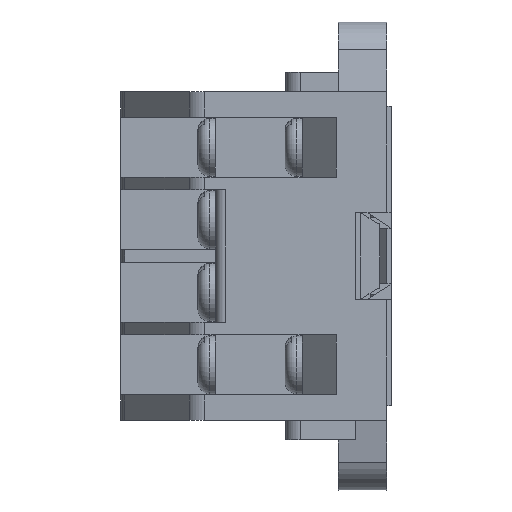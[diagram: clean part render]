
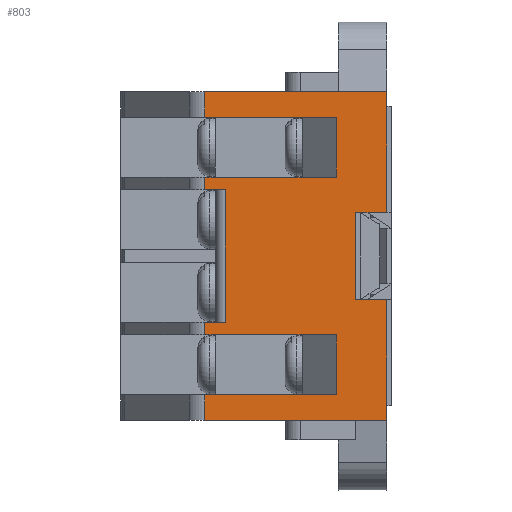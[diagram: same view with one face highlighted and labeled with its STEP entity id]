
A CAD part, left-side view. The second image highlights one B-rep face of the part: STEP entity #803.
In plain terms, the highlighted planar face has unit normal (-1, 0, 0).
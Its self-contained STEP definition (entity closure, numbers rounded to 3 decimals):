
#803=ADVANCED_FACE('',(#5632),#5634,.T.);
#5632=FACE_BOUND('',#5633,.T.);
#5633=EDGE_LOOP('',(#9484,#9485,#9486,#9487,#9488,#9489,#9490,#9491,#9492,#9493,
#9494,#9495,#9496,#9497,#9498,#9499,#9500,#9501,#9502,#9503,#9504,#9505,#9506,#9507,
#9508));
#5634=PLANE('',#5635);
#5635=AXIS2_PLACEMENT_3D('',#5636,#5637,#5638);
#5636=CARTESIAN_POINT('',(-35.85,18.816,0.));
#5637=DIRECTION('',(-1.,0.,0.));
#5638=DIRECTION('',(0.,-1.,0.));
#9484=ORIENTED_EDGE('',*,*,#12394,.T.);
#9485=ORIENTED_EDGE('',*,*,#12395,.T.);
#9486=ORIENTED_EDGE('',*,*,#12396,.F.);
#9487=ORIENTED_EDGE('',*,*,#12397,.T.);
#9488=ORIENTED_EDGE('',*,*,#12398,.T.);
#9489=ORIENTED_EDGE('',*,*,#12399,.T.);
#9490=ORIENTED_EDGE('',*,*,#12400,.T.);
#9491=ORIENTED_EDGE('',*,*,#12401,.T.);
#9492=ORIENTED_EDGE('',*,*,#12336,.T.);
#9493=ORIENTED_EDGE('',*,*,#12381,.F.);
#9494=ORIENTED_EDGE('',*,*,#12402,.F.);
#9495=ORIENTED_EDGE('',*,*,#12403,.T.);
#9496=ORIENTED_EDGE('',*,*,#12404,.T.);
#9497=ORIENTED_EDGE('',*,*,#12405,.T.);
#9498=ORIENTED_EDGE('',*,*,#12406,.T.);
#9499=ORIENTED_EDGE('',*,*,#12407,.T.);
#9500=ORIENTED_EDGE('',*,*,#12408,.T.);
#9501=ORIENTED_EDGE('',*,*,#12409,.T.);
#9502=ORIENTED_EDGE('',*,*,#12410,.F.);
#9503=ORIENTED_EDGE('',*,*,#12411,.T.);
#9504=ORIENTED_EDGE('',*,*,#12412,.T.);
#9505=ORIENTED_EDGE('',*,*,#12413,.T.);
#9506=ORIENTED_EDGE('',*,*,#12414,.F.);
#9507=ORIENTED_EDGE('',*,*,#12415,.T.);
#9508=ORIENTED_EDGE('',*,*,#12416,.T.);
#12336=EDGE_CURVE('',#13828,#13826,#13829,.T.);
#12381=EDGE_CURVE('',#13912,#13826,#13914,.T.);
#12394=EDGE_CURVE('',#13934,#13935,#13936,.T.);
#12395=EDGE_CURVE('',#13935,#13937,#13938,.F.);
#12396=EDGE_CURVE('',#13939,#13937,#13940,.T.);
#12397=EDGE_CURVE('',#13939,#13941,#13942,.T.);
#12398=EDGE_CURVE('',#13941,#13943,#13944,.T.);
#12399=EDGE_CURVE('',#13943,#13945,#13946,.F.);
#12400=EDGE_CURVE('',#13945,#13947,#13948,.F.);
#12401=EDGE_CURVE('',#13947,#13828,#13949,.F.);
#12402=EDGE_CURVE('',#13950,#13912,#13951,.T.);
#12403=EDGE_CURVE('',#13950,#13952,#13953,.F.);
#12404=EDGE_CURVE('',#13952,#13954,#13955,.F.);
#12405=EDGE_CURVE('',#13954,#13956,#13957,.F.);
#12406=EDGE_CURVE('',#13956,#13958,#13959,.T.);
#12407=EDGE_CURVE('',#13958,#13960,#13961,.F.);
#12408=EDGE_CURVE('',#13960,#13962,#13963,.T.);
#12409=EDGE_CURVE('',#13962,#13964,#13965,.F.);
#12410=EDGE_CURVE('',#13966,#13964,#13967,.T.);
#12411=EDGE_CURVE('',#13966,#13968,#13969,.F.);
#12412=EDGE_CURVE('',#13968,#13970,#13971,.T.);
#12413=EDGE_CURVE('',#13970,#13972,#13973,.F.);
#12414=EDGE_CURVE('',#13974,#13972,#13975,.T.);
#12415=EDGE_CURVE('',#13974,#13976,#13977,.F.);
#12416=EDGE_CURVE('',#13976,#13934,#13978,.F.);
#13826=VERTEX_POINT('',#16316);
#13828=VERTEX_POINT('',#16320);
#13829=LINE('',#16321,#16322);
#13912=VERTEX_POINT('',#16502);
#13914=LINE('',#16507,#16508);
#13934=VERTEX_POINT('',#16555);
#13935=VERTEX_POINT('',#16556);
#13936=LINE('',#16557,#16558);
#13937=VERTEX_POINT('',#16560);
#13938=LINE('',#16561,#16562);
#13939=VERTEX_POINT('',#16564);
#13940=LINE('',#16565,#16566);
#13941=VERTEX_POINT('',#16568);
#13942=LINE('',#16569,#16570);
#13943=VERTEX_POINT('',#16572);
#13944=LINE('',#16573,#16574);
#13945=VERTEX_POINT('',#16576);
#13946=LINE('',#16577,#16578);
#13947=VERTEX_POINT('',#16580);
#13948=LINE('',#16581,#16582);
#13949=LINE('',#16584,#16585);
#13950=VERTEX_POINT('',#16587);
#13951=LINE('',#16588,#16589);
#13952=VERTEX_POINT('',#16591);
#13953=LINE('',#16592,#16593);
#13954=VERTEX_POINT('',#16595);
#13955=LINE('',#16596,#16597);
#13956=VERTEX_POINT('',#16599);
#13957=LINE('',#16600,#16601);
#13958=VERTEX_POINT('',#16603);
#13959=LINE('',#16604,#16605);
#13960=VERTEX_POINT('',#16607);
#13961=LINE('',#16608,#16609);
#13962=VERTEX_POINT('',#16611);
#13963=LINE('',#16612,#16613);
#13964=VERTEX_POINT('',#16615);
#13965=LINE('',#16616,#16617);
#13966=VERTEX_POINT('',#16619);
#13967=LINE('',#16620,#16621);
#13968=VERTEX_POINT('',#16623);
#13969=LINE('',#16624,#16625);
#13970=VERTEX_POINT('',#16627);
#13971=LINE('',#16628,#16629);
#13972=VERTEX_POINT('',#16631);
#13973=LINE('',#16632,#16633);
#13974=VERTEX_POINT('',#16635);
#13975=LINE('',#16636,#16637);
#13976=VERTEX_POINT('',#16639);
#13977=LINE('',#16640,#16641);
#13978=LINE('',#16643,#16644);
#16316=CARTESIAN_POINT('',(-35.85,0.,34.));
#16320=CARTESIAN_POINT('',(-35.85,0.,21.498));
#16321=CARTESIAN_POINT('',(-35.85,0.,21.498));
#16322=VECTOR('',#16323,1.);
#16323=DIRECTION('',(0.,0.,1.));
#16502=CARTESIAN_POINT('',(-35.85,18.816,34.));
#16507=CARTESIAN_POINT('',(-35.85,18.816,34.));
#16508=VECTOR('',#16509,1.);
#16509=DIRECTION('',(0.,-1.,0.));
#16555=CARTESIAN_POINT('',(-35.85,5.2,8.85));
#16556=CARTESIAN_POINT('',(-35.85,5.2,2.65));
#16557=CARTESIAN_POINT('',(-35.85,5.2,8.85));
#16558=VECTOR('',#16559,1.);
#16559=DIRECTION('',(0.,0.,-1.));
#16560=CARTESIAN_POINT('',(-35.85,18.816,2.65));
#16561=CARTESIAN_POINT('',(-35.85,18.816,2.65));
#16562=VECTOR('',#16563,1.);
#16563=DIRECTION('',(0.,-1.,0.));
#16564=CARTESIAN_POINT('',(-35.85,18.816,0.));
#16565=CARTESIAN_POINT('',(-35.85,18.816,0.));
#16566=VECTOR('',#16567,1.);
#16567=DIRECTION('',(0.,0.,1.));
#16568=CARTESIAN_POINT('',(-35.85,0.,0.));
#16569=CARTESIAN_POINT('',(-35.85,18.816,0.));
#16570=VECTOR('',#16571,1.);
#16571=DIRECTION('',(0.,-1.,0.));
#16572=CARTESIAN_POINT('',(-35.85,0.,12.5));
#16573=CARTESIAN_POINT('',(-35.85,0.,0.));
#16574=VECTOR('',#16575,1.);
#16575=DIRECTION('',(0.,0.,1.));
#16576=CARTESIAN_POINT('',(-35.85,3.2,12.5));
#16577=CARTESIAN_POINT('',(-35.85,3.2,12.5));
#16578=VECTOR('',#16579,1.);
#16579=DIRECTION('',(0.,-1.,0.));
#16580=CARTESIAN_POINT('',(-35.85,3.2,21.498));
#16581=CARTESIAN_POINT('',(-35.85,3.2,21.498));
#16582=VECTOR('',#16583,1.);
#16583=DIRECTION('',(0.,0.,-1.));
#16584=CARTESIAN_POINT('',(-35.85,0.,21.498));
#16585=VECTOR('',#16586,1.);
#16586=DIRECTION('',(0.,1.,0.));
#16587=CARTESIAN_POINT('',(-35.85,18.816,31.35));
#16588=CARTESIAN_POINT('',(-35.85,18.816,31.35));
#16589=VECTOR('',#16590,1.);
#16590=DIRECTION('',(0.,0.,1.));
#16591=CARTESIAN_POINT('',(-35.85,17.7,31.35));
#16592=CARTESIAN_POINT('',(-35.85,17.7,31.35));
#16593=VECTOR('',#16594,1.);
#16594=DIRECTION('',(0.,1.,0.));
#16595=CARTESIAN_POINT('',(-35.85,17.7,31.357));
#16596=CARTESIAN_POINT('',(-35.85,17.7,31.357));
#16597=VECTOR('',#16598,1.);
#16598=DIRECTION('',(0.,0.,-1.));
#16599=CARTESIAN_POINT('',(-35.85,5.2,31.357));
#16600=CARTESIAN_POINT('',(-35.85,5.2,31.357));
#16601=VECTOR('',#16602,1.);
#16602=DIRECTION('',(0.,1.,0.));
#16603=CARTESIAN_POINT('',(-35.85,5.2,25.156));
#16604=CARTESIAN_POINT('',(-35.85,5.2,31.357));
#16605=VECTOR('',#16606,1.);
#16606=DIRECTION('',(0.,0.,-1.));
#16607=CARTESIAN_POINT('',(-35.85,17.7,25.156));
#16608=CARTESIAN_POINT('',(-35.85,17.7,25.156));
#16609=VECTOR('',#16610,1.);
#16610=DIRECTION('',(0.,-1.,0.));
#16611=CARTESIAN_POINT('',(-35.85,17.7,25.15));
#16612=CARTESIAN_POINT('',(-35.85,17.7,25.156));
#16613=VECTOR('',#16614,1.);
#16614=DIRECTION('',(0.,0.,-1.));
#16615=CARTESIAN_POINT('',(-35.85,18.816,25.15));
#16616=CARTESIAN_POINT('',(-35.85,18.816,25.15));
#16617=VECTOR('',#16618,1.);
#16618=DIRECTION('',(0.,-1.,0.));
#16619=CARTESIAN_POINT('',(-35.85,18.816,23.85));
#16620=CARTESIAN_POINT('',(-35.85,18.816,23.85));
#16621=VECTOR('',#16622,1.);
#16622=DIRECTION('',(0.,0.,1.));
#16623=CARTESIAN_POINT('',(-35.85,16.7,23.85));
#16624=CARTESIAN_POINT('',(-35.85,16.7,23.85));
#16625=VECTOR('',#16626,1.);
#16626=DIRECTION('',(0.,1.,0.));
#16627=CARTESIAN_POINT('',(-35.85,16.7,10.15));
#16628=CARTESIAN_POINT('',(-35.85,16.7,23.85));
#16629=VECTOR('',#16630,1.);
#16630=DIRECTION('',(0.,0.,-1.));
#16631=CARTESIAN_POINT('',(-35.85,18.816,10.15));
#16632=CARTESIAN_POINT('',(-35.85,18.816,10.15));
#16633=VECTOR('',#16634,1.);
#16634=DIRECTION('',(0.,-1.,0.));
#16635=CARTESIAN_POINT('',(-35.85,18.816,8.85));
#16636=CARTESIAN_POINT('',(-35.85,18.816,8.85));
#16637=VECTOR('',#16638,1.);
#16638=DIRECTION('',(0.,0.,1.));
#16639=CARTESIAN_POINT('',(-35.85,17.7,8.85));
#16640=CARTESIAN_POINT('',(-35.85,17.7,8.85));
#16641=VECTOR('',#16642,1.);
#16642=DIRECTION('',(0.,1.,0.));
#16643=CARTESIAN_POINT('',(-35.85,5.2,8.85));
#16644=VECTOR('',#16645,1.);
#16645=DIRECTION('',(0.,1.,0.));
